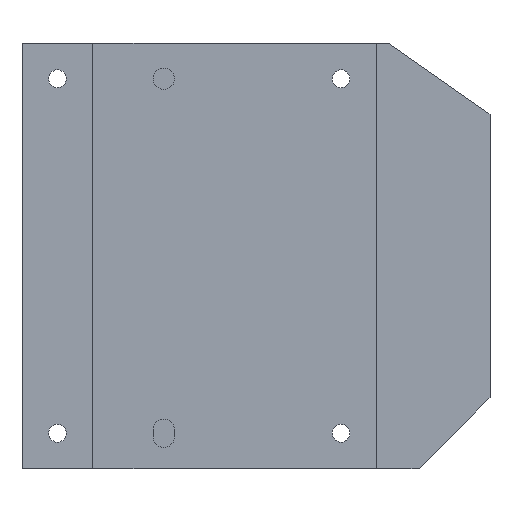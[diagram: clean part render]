
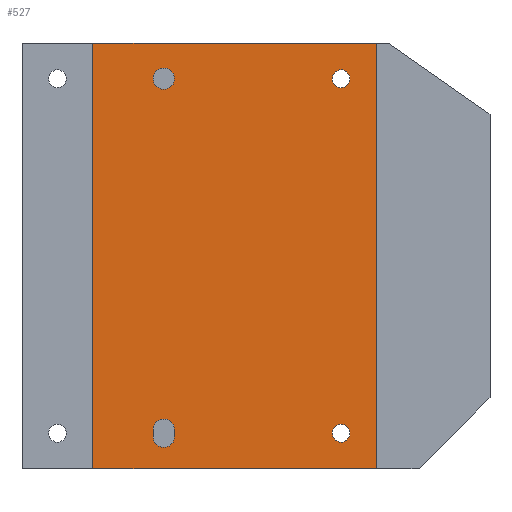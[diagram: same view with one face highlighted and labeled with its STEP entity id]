
A CAD part, front view. The second image highlights one B-rep face of the part: STEP entity #527.
In plain terms, the highlighted planar face has unit normal (0, -1, 0).
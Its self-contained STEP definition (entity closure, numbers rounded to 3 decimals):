
#18=FACE_BOUND('',#110,.T.);
#19=FACE_BOUND('',#111,.T.);
#20=FACE_BOUND('',#112,.T.);
#21=FACE_BOUND('',#113,.T.);
#50=PLANE('',#570);
#73=FACE_OUTER_BOUND('',#109,.T.);
#109=EDGE_LOOP('',(#408,#409,#410,#411));
#110=EDGE_LOOP('',(#412,#413,#414,#415));
#111=EDGE_LOOP('',(#416));
#112=EDGE_LOOP('',(#417));
#113=EDGE_LOOP('',(#418));
#163=LINE('',#790,#201);
#167=LINE('',#801,#205);
#171=LINE('',#817,#209);
#175=LINE('',#826,#213);
#177=LINE('',#829,#215);
#178=LINE('',#830,#216);
#201=VECTOR('',#628,1.);
#205=VECTOR('',#640,1.);
#209=VECTOR('',#656,60.);
#213=VECTOR('',#662,60.);
#215=VECTOR('',#666,40.);
#216=VECTOR('',#667,40.);
#237=CIRCLE('',#556,1.5);
#239=CIRCLE('',#560,1.5);
#242=CIRCLE('',#566,1.5);
#243=CIRCLE('',#571,1.25);
#244=CIRCLE('',#572,1.25);
#263=VERTEX_POINT('',#780);
#264=VERTEX_POINT('',#781);
#267=VERTEX_POINT('',#789);
#269=VERTEX_POINT('',#795);
#272=VERTEX_POINT('',#807);
#275=VERTEX_POINT('',#814);
#276=VERTEX_POINT('',#816);
#279=VERTEX_POINT('',#823);
#280=VERTEX_POINT('',#825);
#281=VERTEX_POINT('',#831);
#282=VERTEX_POINT('',#833);
#313=EDGE_CURVE('',#263,#264,#237,.T.);
#317=EDGE_CURVE('',#267,#263,#163,.T.);
#320=EDGE_CURVE('',#269,#267,#239,.T.);
#323=EDGE_CURVE('',#264,#269,#167,.T.);
#326=EDGE_CURVE('',#272,#272,#242,.T.);
#329=EDGE_CURVE('',#275,#276,#171,.T.);
#333=EDGE_CURVE('',#279,#280,#175,.T.);
#335=EDGE_CURVE('',#276,#279,#177,.T.);
#336=EDGE_CURVE('',#280,#275,#178,.T.);
#337=EDGE_CURVE('',#281,#281,#243,.T.);
#338=EDGE_CURVE('',#282,#282,#244,.T.);
#408=ORIENTED_EDGE('',*,*,#333,.F.);
#409=ORIENTED_EDGE('',*,*,#335,.F.);
#410=ORIENTED_EDGE('',*,*,#329,.F.);
#411=ORIENTED_EDGE('',*,*,#336,.F.);
#412=ORIENTED_EDGE('',*,*,#313,.T.);
#413=ORIENTED_EDGE('',*,*,#323,.T.);
#414=ORIENTED_EDGE('',*,*,#320,.T.);
#415=ORIENTED_EDGE('',*,*,#317,.T.);
#416=ORIENTED_EDGE('',*,*,#326,.T.);
#417=ORIENTED_EDGE('',*,*,#337,.F.);
#418=ORIENTED_EDGE('',*,*,#338,.F.);
#527=ADVANCED_FACE('',(#73,#18,#19,#20,#21),#50,.F.);
#556=AXIS2_PLACEMENT_3D('',#782,#620,#621);
#560=AXIS2_PLACEMENT_3D('',#796,#633,#634);
#566=AXIS2_PLACEMENT_3D('',#808,#648,#649);
#570=AXIS2_PLACEMENT_3D('',#828,#664,#665);
#571=AXIS2_PLACEMENT_3D('',#832,#668,#669);
#572=AXIS2_PLACEMENT_3D('',#834,#670,#671);
#620=DIRECTION('center_axis',(0.,1.,0.));
#621=DIRECTION('ref_axis',(-1.,0.,0.));
#628=DIRECTION('',(0.,0.,-1.));
#633=DIRECTION('center_axis',(0.,1.,0.));
#634=DIRECTION('ref_axis',(1.,0.,0.));
#640=DIRECTION('',(0.,0.,1.));
#648=DIRECTION('center_axis',(0.,1.,0.));
#649=DIRECTION('ref_axis',(-1.,0.,0.));
#656=DIRECTION('',(0.,0.,-1.));
#662=DIRECTION('',(0.,0.,1.));
#664=DIRECTION('center_axis',(0.,1.,0.));
#665=DIRECTION('ref_axis',(0.,0.,1.));
#666=DIRECTION('',(-1.,0.,0.));
#667=DIRECTION('',(1.,0.,0.));
#668=DIRECTION('center_axis',(0.,-1.,0.));
#669=DIRECTION('ref_axis',(1.,0.,0.));
#670=DIRECTION('center_axis',(0.,-1.,0.));
#671=DIRECTION('ref_axis',(1.,0.,0.));
#780=CARTESIAN_POINT('',(-11.5,0.5,-25.5));
#781=CARTESIAN_POINT('',(-14.5,0.5,-25.5));
#782=CARTESIAN_POINT('Origin',(-13.,0.5,-25.5));
#789=CARTESIAN_POINT('',(-11.5,0.5,-24.5));
#790=CARTESIAN_POINT('',(-11.5,0.5,-12.25));
#795=CARTESIAN_POINT('',(-14.5,0.5,-24.5));
#796=CARTESIAN_POINT('Origin',(-13.,0.5,-24.5));
#801=CARTESIAN_POINT('',(-14.5,0.5,-12.5));
#807=CARTESIAN_POINT('',(-11.5,0.5,25.));
#808=CARTESIAN_POINT('Origin',(-13.,0.5,25.));
#814=CARTESIAN_POINT('',(17.,0.5,30.));
#816=CARTESIAN_POINT('',(17.,0.5,-30.));
#817=CARTESIAN_POINT('',(17.,0.5,-30.));
#823=CARTESIAN_POINT('',(-23.,0.5,-30.));
#825=CARTESIAN_POINT('',(-23.,0.5,30.));
#826=CARTESIAN_POINT('',(-23.,0.5,30.));
#828=CARTESIAN_POINT('Origin',(-3.,0.5,0.));
#829=CARTESIAN_POINT('',(15.,0.5,-30.));
#830=CARTESIAN_POINT('',(-18.,0.5,30.));
#831=CARTESIAN_POINT('',(10.75,0.5,25.));
#832=CARTESIAN_POINT('Origin',(12.,0.5,25.));
#833=CARTESIAN_POINT('',(10.75,0.5,-25.));
#834=CARTESIAN_POINT('Origin',(12.,0.5,-25.));
